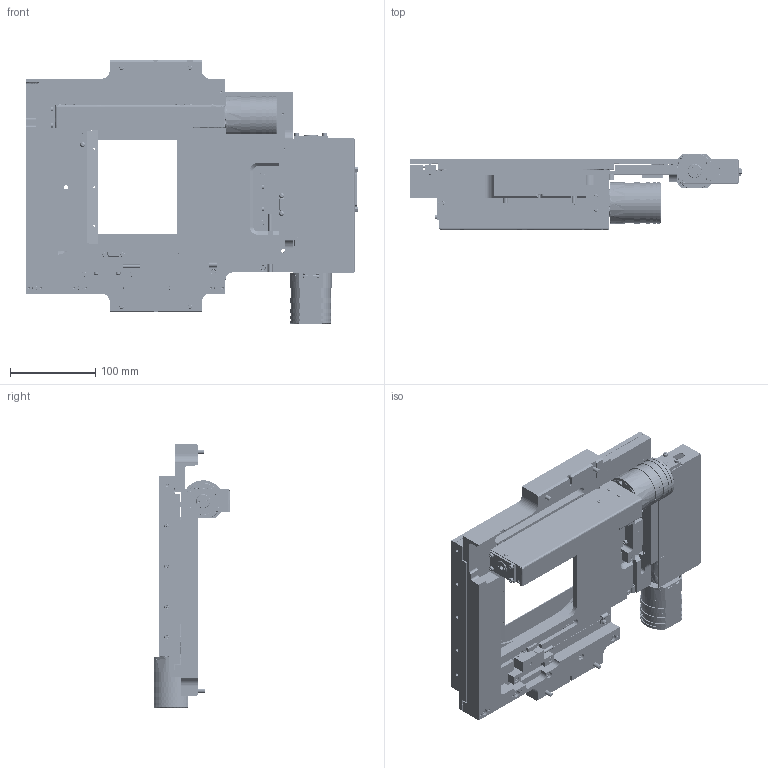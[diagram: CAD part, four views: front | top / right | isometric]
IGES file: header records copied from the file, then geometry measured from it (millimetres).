
Start section: SolidWorks IGES file using analytic representation for surfaces
Global section: file name: C:\1-DATA-FILES-FOR-PROJECTS\2022-PRODUCT-REFERENCE-MODELS\6-SECOND-BATCH-STAGES\H117E2TE-STAGE\2-H1172TE-REFERENCE-PARTS\H117E2TE_REFERENCE-IGES.IGS; native system: SolidWorks 2019; preprocessor: SolidWorks 2019; author: jwilliams; date: 220203.103801; units: inch
Bounding box: 388.91 x 89 x 309.2 mm (x, y, z)
Surface area: 697986.9 mm2 (no closed solid volume)
Topology: 0 solids, 0 shells, 6182 faces, 76264 edges, 76054 vertices
Faces by surface type: bspline 3553, revolution 2629
